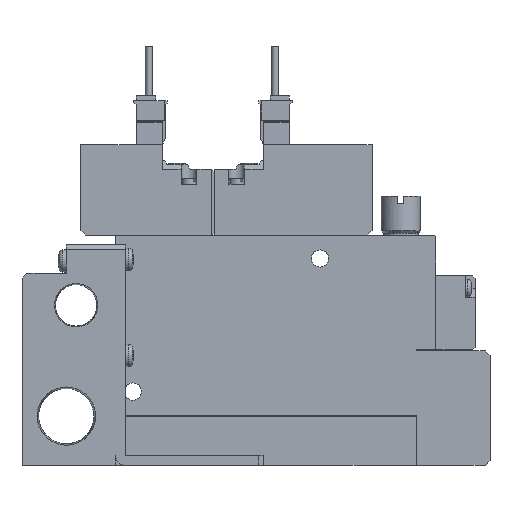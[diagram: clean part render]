
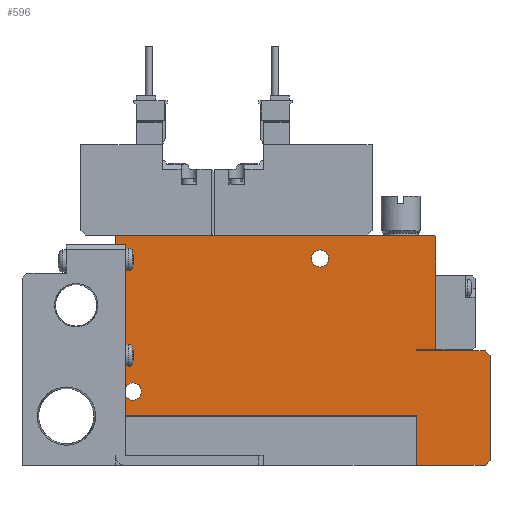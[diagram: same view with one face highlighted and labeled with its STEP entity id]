
A CAD part, top view. The second image highlights one B-rep face of the part: STEP entity #596.
In plain terms, the highlighted planar face has unit normal (0, 0, 1).
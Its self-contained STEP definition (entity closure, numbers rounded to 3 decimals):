
#596=ADVANCED_FACE('',(#1341,#1342,#1343),#1344,.F.);
#1341=FACE_OUTER_BOUND('',#2324,.T.);
#1342=FACE_BOUND('',#2325,.T.);
#1343=FACE_BOUND('',#2326,.T.);
#1344=PLANE('',#2327);
#2324=EDGE_LOOP('',(#4924,#4925,#4926,#4927,#4928,#4929,#4930,#4931,#4932,#4933,#4934,#4935,#4936,#4937));
#2325=EDGE_LOOP('',(#4938));
#2326=EDGE_LOOP('',(#4939));
#2327=AXIS2_PLACEMENT_3D('',#4940,#4941,#4942);
#4924=ORIENTED_EDGE('',*,*,#6856,.T.);
#4925=ORIENTED_EDGE('',*,*,#6882,.F.);
#4926=ORIENTED_EDGE('',*,*,#6883,.F.);
#4927=ORIENTED_EDGE('',*,*,#6884,.T.);
#4928=ORIENTED_EDGE('',*,*,#6885,.T.);
#4929=ORIENTED_EDGE('',*,*,#6886,.T.);
#4930=ORIENTED_EDGE('',*,*,#6878,.T.);
#4931=ORIENTED_EDGE('',*,*,#6887,.T.);
#4932=ORIENTED_EDGE('',*,*,#6888,.T.);
#4933=ORIENTED_EDGE('',*,*,#6889,.T.);
#4934=ORIENTED_EDGE('',*,*,#6890,.T.);
#4935=ORIENTED_EDGE('',*,*,#6891,.T.);
#4936=ORIENTED_EDGE('',*,*,#6892,.T.);
#4937=ORIENTED_EDGE('',*,*,#6893,.T.);
#4938=ORIENTED_EDGE('',*,*,#6894,.F.);
#4939=ORIENTED_EDGE('',*,*,#6881,.F.);
#4940=CARTESIAN_POINT('',(0.0,0.0,5.0));
#4941=DIRECTION('',(0.0,0.0,-1.0));
#4942=DIRECTION('',(0.0,-1.0,0.0));
#6856=EDGE_CURVE('',#8396,#8394,#8397,.T.);
#6878=EDGE_CURVE('',#8440,#8438,#8441,.T.);
#6881=EDGE_CURVE('',#8445,#8445,#8446,.T.);
#6882=EDGE_CURVE('',#8447,#8394,#8448,.T.);
#6883=EDGE_CURVE('',#8449,#8447,#8450,.T.);
#6884=EDGE_CURVE('',#8449,#8451,#8452,.T.);
#6885=EDGE_CURVE('',#8451,#8453,#8454,.T.);
#6886=EDGE_CURVE('',#8453,#8440,#8455,.T.);
#6887=EDGE_CURVE('',#8438,#8456,#8457,.T.);
#6888=EDGE_CURVE('',#8456,#8458,#8459,.T.);
#6889=EDGE_CURVE('',#8458,#8460,#8461,.T.);
#6890=EDGE_CURVE('',#8460,#8462,#8463,.T.);
#6891=EDGE_CURVE('',#8462,#8464,#8465,.T.);
#6892=EDGE_CURVE('',#8464,#8466,#8467,.T.);
#6893=EDGE_CURVE('',#8466,#8396,#8468,.T.);
#6894=EDGE_CURVE('',#8469,#8469,#8470,.T.);
#8394=VERTEX_POINT('',#10869);
#8396=VERTEX_POINT('',#10872);
#8397=LINE('',#10873,#10874);
#8438=VERTEX_POINT('',#10933);
#8440=VERTEX_POINT('',#10936);
#8441=LINE('',#10937,#10938);
#8445=VERTEX_POINT('',#10943);
#8446=CIRCLE('',#10944,1.75);
#8447=VERTEX_POINT('',#10945);
#8448=LINE('',#10946,#10947);
#8449=VERTEX_POINT('',#10948);
#8450=LINE('',#10949,#10950);
#8451=VERTEX_POINT('',#10951);
#8452=LINE('',#10952,#10953);
#8453=VERTEX_POINT('',#10954);
#8454=LINE('',#10955,#10956);
#8455=LINE('',#10957,#10958);
#8456=VERTEX_POINT('',#10959);
#8457=LINE('',#10960,#10961);
#8458=VERTEX_POINT('',#10962);
#8459=LINE('',#10963,#10964);
#8460=VERTEX_POINT('',#10965);
#8461=LINE('',#10966,#10967);
#8462=VERTEX_POINT('',#10968);
#8463=LINE('',#10969,#10970);
#8464=VERTEX_POINT('',#10971);
#8465=LINE('',#10972,#10973);
#8466=VERTEX_POINT('',#10974);
#8467=LINE('',#10975,#10976);
#8468=LINE('',#10977,#10978);
#8469=VERTEX_POINT('',#10979);
#8470=CIRCLE('',#10980,1.75);
#10869=CARTESIAN_POINT('',(0.0,10.1,5.0));
#10872=CARTESIAN_POINT('',(0.0,46.4,5.0));
#10873=CARTESIAN_POINT('',(0.0,46.4,5.0));
#10874=VECTOR('',#13085,1.0);
#10933=CARTESIAN_POINT('',(75.0,23.25,5.0));
#10936=CARTESIAN_POINT('',(76.0,22.25,5.0));
#10937=CARTESIAN_POINT('',(76.0,22.25,5.0));
#10938=VECTOR('',#13111,1.0);
#10943=CARTESIAN_POINT('',(43.25,42.0,5.0));
#10944=AXIS2_PLACEMENT_3D('',#13116,#13117,#13118);
#10945=CARTESIAN_POINT('',(61.1,10.1,5.0));
#10946=CARTESIAN_POINT('',(61.1,10.1,5.0));
#10947=VECTOR('',#13119,1.0);
#10948=CARTESIAN_POINT('',(61.1,0.0,5.0));
#10949=CARTESIAN_POINT('',(61.1,0.0,5.0));
#10950=VECTOR('',#13120,1.0);
#10951=CARTESIAN_POINT('',(75.0,0.0,5.0));
#10952=CARTESIAN_POINT('',(0.0,0.0,5.0));
#10953=VECTOR('',#13121,1.0);
#10954=CARTESIAN_POINT('',(76.0,1.0,5.0));
#10955=CARTESIAN_POINT('',(75.0,0.0,5.0));
#10956=VECTOR('',#13122,1.0);
#10957=CARTESIAN_POINT('',(76.0,1.0,5.0));
#10958=VECTOR('',#13123,1.0);
#10959=CARTESIAN_POINT('',(61.0,23.25,5.0));
#10960=CARTESIAN_POINT('',(75.0,23.25,5.0));
#10961=VECTOR('',#13124,1.0);
#10962=CARTESIAN_POINT('',(61.0,23.5,5.0));
#10963=CARTESIAN_POINT('',(61.0,23.25,5.0));
#10964=VECTOR('',#13125,1.0);
#10965=CARTESIAN_POINT('',(65.0,23.5,5.0));
#10966=CARTESIAN_POINT('',(61.0,23.5,5.0));
#10967=VECTOR('',#13126,1.0);
#10968=CARTESIAN_POINT('',(65.0,46.4,5.0));
#10969=CARTESIAN_POINT('',(65.0,23.5,5.0));
#10970=VECTOR('',#13127,1.0);
#10971=CARTESIAN_POINT('',(64.8,46.6,5.0));
#10972=CARTESIAN_POINT('',(65.0,46.4,5.0));
#10973=VECTOR('',#13128,1.0);
#10974=CARTESIAN_POINT('',(0.2,46.6,5.0));
#10975=CARTESIAN_POINT('',(64.8,46.6,5.0));
#10976=VECTOR('',#13129,1.0);
#10977=CARTESIAN_POINT('',(0.2,46.6,5.0));
#10978=VECTOR('',#13130,1.0);
#10979=CARTESIAN_POINT('',(5.25,15.0,5.0));
#10980=AXIS2_PLACEMENT_3D('',#13131,#13132,#13133);
#13085=DIRECTION('',(0.0,-1.0,0.0));
#13111=DIRECTION('',(-0.707,0.707,0.0));
#13116=CARTESIAN_POINT('',(41.5,42.0,5.0));
#13117=DIRECTION('',(0.0,0.0,1.0));
#13118=DIRECTION('',(1.0,0.0,0.0));
#13119=DIRECTION('',(-1.0,0.0,0.0));
#13120=DIRECTION('',(0.0,1.0,0.0));
#13121=DIRECTION('',(1.0,0.0,0.0));
#13122=DIRECTION('',(0.707,0.707,0.0));
#13123=DIRECTION('',(0.0,1.0,0.0));
#13124=DIRECTION('',(-1.0,0.0,0.0));
#13125=DIRECTION('',(0.0,1.0,0.0));
#13126=DIRECTION('',(1.0,0.,0.0));
#13127=DIRECTION('',(0.0,1.0,0.0));
#13128=DIRECTION('',(-0.707,0.707,0.0));
#13129=DIRECTION('',(-1.0,0.0,0.0));
#13130=DIRECTION('',(-0.707,-0.707,0.0));
#13131=CARTESIAN_POINT('',(3.5,15.0,5.0));
#13132=DIRECTION('',(0.0,0.0,1.0));
#13133=DIRECTION('',(1.0,0.0,0.0));
